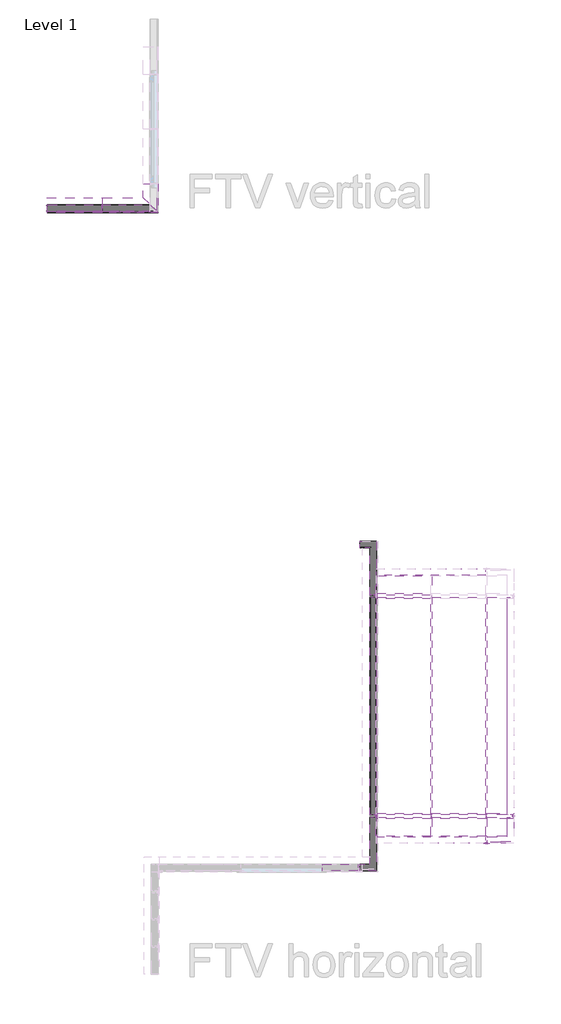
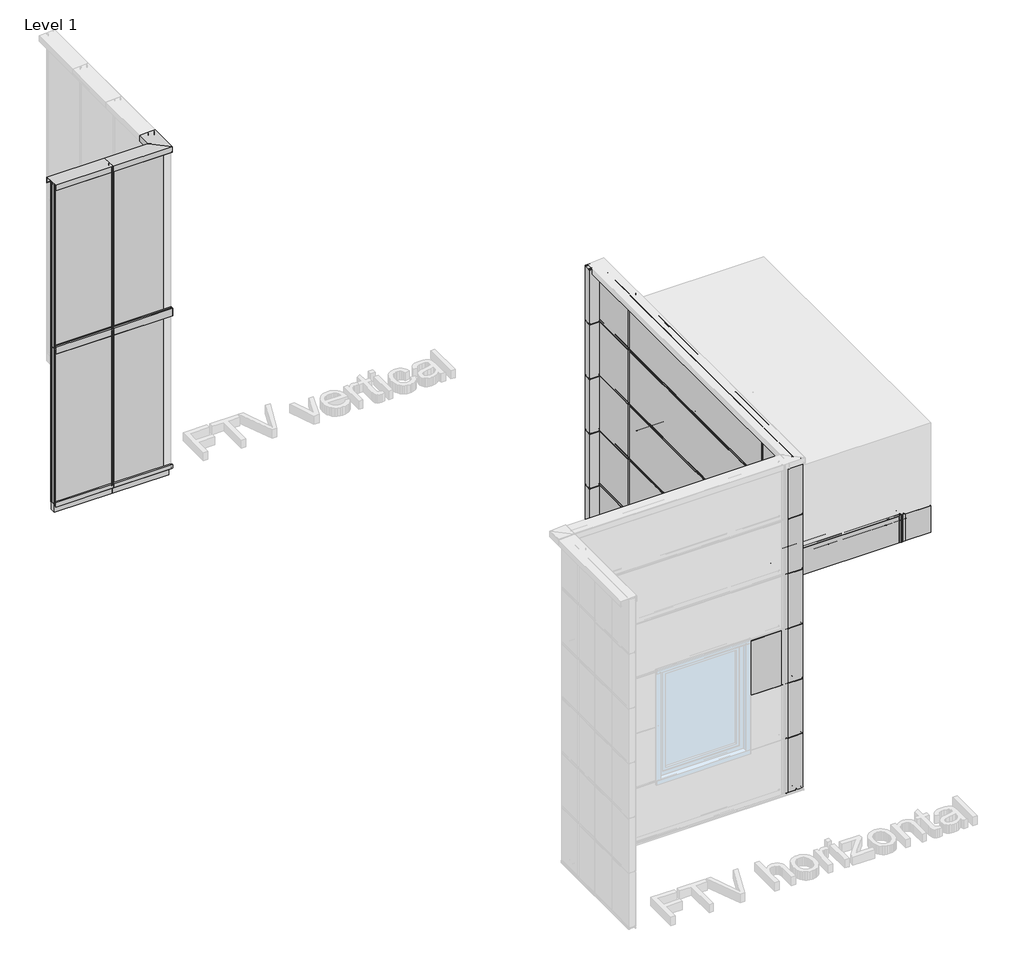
# One storey, part 2 of 16: 35 plates, 26 members.
"""IFC4 building model written with IfcOpenShell, lengths in millimetres."""

from ifc_helpers import new_model, si_unit, point, frame, frame_2d, origin, place, context, project, spatial, polyline, circle_curve, trimmed, segment, composite_curve, outline, extrude, transform, mapped, element, save
from components import rectangular_mullion_bb89daf4, rectangular_mullion_3d825509, rectangular_mullion_a47ee03b, rectangular_mullion_513d8d5d, rectangular_mullion_1a67f413, rectangular_mullion_03bf972b, rectangular_mullion_af7dcb7b, rectangular_mullion_ffd1ddda, rectangular_mullion_00074b12, rectangular_mullion_0c125c1a, rectangular_mullion_e84dba29, rectangular_mullion_6308ee2a, plate_120_ral9006_ral9002_46c4dbfd, plate_120_ral9006_ral9002_3762bd6a, plate_120_ral9006_ral9002_a6f5208c, plate_120_ral9006_ral9002_786550d8, plate_120_ral9006_ral9002_75840fce, plate_120_ral9006_ral9002_4177b999, plate_120_ral9006_ral9002_6d735d81, plate_120_ral9006_ral9002_27679325, plate_120_ral9006_ral9002_82c58e75, plate_120_ral9006_ral9002_b045842a, plate_120_ral9006_ral9002_200af9a8, plate_120_ral9006_ral9002_56020689, plate_120_ral9006_ral9002_a21c830a, plate_120_ral9006_ral9002_852db846, plate_120_ral9006_ral9002_347d5f76, plate_120_ral9006_ral9002_4569f67c, tr_empty_empty_7661b975

model = new_model("IFC4")

# Units and contexts
model_context = context("Model", 3, world=origin())
ifc_project = project(units=[si_unit("LENGTHUNIT", "METRE", prefix="MILLI")], contexts=[model_context])

# Site, building, storey
site = spatial("IfcSite", under=ifc_project)
building = spatial("IfcBuilding", under=site)
storey = spatial("IfcBuildingStorey", under=building, Name="Level 1", Elevation=0.0)

# Members
placement = place(None, origin())
rectangular_mullion_shape = rectangular_mullion_bb89daf4(model_context)
element("IfcMember", 1, ObjectType="Rectangular Mullion : TE-H-01_03_Joint HF102", at=placement, inside=storey, context=model_context, shape_type="MappedRepresentation", body=[
    mapped(rectangular_mullion_shape, transform((2005.8844943, -11530.3930879, 4150.0), x_axis=(-1.0, 0.0, 0.0), y_axis=(0.0, -1.0, 0.0), z_axis=(0.0, 0.0, 1.0))),
])
element("IfcMember", 2, ObjectType="Rectangular Mullion : TE-H-01_03_Joint HF102", at=placement, inside=storey, context=model_context, shape_type="MappedRepresentation", body=[
    mapped(rectangular_mullion_shape, transform((2505.8844943, -11030.3930879, 4150.0), x_axis=(0.0, -1.0, 0.0), y_axis=(1.0, 0.0, 0.0), z_axis=(0.0, 0.0, 1.0))),
])
rectangular_mullion_2_shape = rectangular_mullion_3d825509(model_context)
element("IfcMember", 3, ObjectType="Rectangular Mullion : TE-H-01_03_Joint HF102", at=placement, inside=storey, context=model_context, shape_type="MappedRepresentation", body=[
    mapped(rectangular_mullion_2_shape, transform((2505.8844943, -11030.3930879, 3650.0), x_axis=(0.0, -1.0, 0.0), y_axis=(0.0, 0.0, -1.0), z_axis=(1.0, 0.0, 0.0))),
])
rectangular_mullion_3_shape = rectangular_mullion_a47ee03b(model_context)
element("IfcMember", 4, ObjectType="Rectangular Mullion : TE-H-01_03_Joint HF102", at=placement, inside=storey, context=model_context, shape_type="MappedRepresentation", body=[
    mapped(rectangular_mullion_3_shape, transform((1005.8844943, -11030.3930879, 3650.0), x_axis=(0.0, -1.0, 0.0), y_axis=(0.0, 0.0, -1.0), z_axis=(1.0, 0.0, 0.0))),
])
element("IfcMember", 5, ObjectType="Rectangular Mullion : TE-H-01_03_Joint HF102", at=placement, inside=storey, context=model_context, shape_type="MappedRepresentation", body=[
    mapped(rectangular_mullion_3_shape, transform((1005.8844943, -7030.3930879, 3650.0), x_axis=(0.0, -1.0, 0.0), y_axis=(0.0, 0.0, -1.0), z_axis=(1.0, 0.0, 0.0))),
])
element("IfcMember", 6, ObjectType="Rectangular Mullion : TE-H-01_03_Joint HF102", at=placement, inside=storey, context=model_context, shape_type="MappedRepresentation", body=[
    mapped(rectangular_mullion_3_shape, transform((2005.8844943, -11030.3930879, 3650.0), x_axis=(0.0, -1.0, 0.0), y_axis=(0.0, 0.0, -1.0), z_axis=(1.0, 0.0, 0.0))),
])
rectangular_mullion_4_shape = rectangular_mullion_513d8d5d(model_context)
element("IfcMember", 7, ObjectType="Rectangular Mullion : TE-V-03_01_Top parapet", at=placement, inside=storey, context=model_context, shape_type="MappedRepresentation", body=[
    mapped(rectangular_mullion_4_shape, transform((-5994.1155057, -30.3930879, 6000.0), x_axis=(0.0, 0.0, 1.0), y_axis=(0.0, 1.0, 0.0), z_axis=(-1.0, 0.0, 0.0))),
])
rectangular_mullion_5_shape = rectangular_mullion_1a67f413(model_context)
element("IfcMember", 8, ObjectType="Rectangular Mullion : TE-V-03_01_Top parapet", at=placement, inside=storey, context=model_context, shape_type="MappedRepresentation", body=[
    mapped(rectangular_mullion_5_shape, transform((-4994.115506, -30.3930879, 6000.0), x_axis=(0.0, 0.0, 1.0), y_axis=(0.0, 1.0, 0.0), z_axis=(-1.0, 0.0, 0.0))),
])
rectangular_mullion_6_shape = rectangular_mullion_03bf972b(model_context)
element("IfcMember", 9, ObjectType="Rectangular Mullion : TE-V-02_01_Base detail i", at=placement, inside=storey, context=model_context, shape_type="MappedRepresentation", body=[
    mapped(rectangular_mullion_6_shape, transform((-3994.1155057, -30.3930879, 0.0), x_axis=(0.0, 0.0, -1.0), y_axis=(0.0, 1.0, 0.0), z_axis=(1.0, 0.0, 0.0))),
])
rectangular_mullion_7_shape = rectangular_mullion_af7dcb7b(model_context)
element("IfcMember", 10, ObjectType="Rectangular Mullion : TE-V-02_01_Base detail i", at=placement, inside=storey, context=model_context, shape_type="MappedRepresentation", body=[
    mapped(rectangular_mullion_7_shape, transform((-4994.115506, -30.3930879, 0.0), x_axis=(0.0, 0.0, -1.0), y_axis=(0.0, 1.0, 0.0), z_axis=(1.0, 0.0, 0.0))),
])
rectangular_mullion_8_shape = rectangular_mullion_ffd1ddda(model_context)
element("IfcMember", 11, ObjectType="Rectangular Mullion : TE-V-01_02_Joint flashing", at=placement, inside=storey, context=model_context, shape_type="MappedRepresentation", body=[
    mapped(rectangular_mullion_8_shape, transform((-4994.115506, -30.3930879, 3000.0), x_axis=(0.0, 0.0, 1.0), y_axis=(0.0, 1.0, 0.0), z_axis=(-1.0, 0.0, 0.0))),
])
rectangular_mullion_9_shape = rectangular_mullion_00074b12(model_context)
element("IfcMember", 12, ObjectType="Rectangular Mullion : TE-V-01_02_Joint flashing", at=placement, inside=storey, context=model_context, shape_type="MappedRepresentation", body=[
    mapped(rectangular_mullion_9_shape, transform((-5994.1155057, -30.3930879, 3000.0), x_axis=(0.0, 0.0, 1.0), y_axis=(0.0, 1.0, 0.0), z_axis=(-1.0, 0.0, 0.0))),
])
rectangular_mullion_10_shape = rectangular_mullion_0c125c1a(model_context)
element("IfcMember", 13, ObjectType="Rectangular Mullion : TE-V-01_02_Joint flashing", at=placement, inside=storey, context=model_context, shape_type="MappedRepresentation", body=[
    mapped(rectangular_mullion_10_shape, transform((-3994.1155057, -30.3930879, 3000.0), x_axis=(0.0, 0.0, 1.0), y_axis=(-1.0, 0.0, 0.0), z_axis=(0.0, -1.0, 0.0))),
])
rectangular_mullion_11_shape = rectangular_mullion_e84dba29(model_context)
element("IfcMember", 14, ObjectType="Rectangular Mullion : TE-V-03_01_Top parapet", at=placement, inside=storey, context=model_context, shape_type="MappedRepresentation", body=[
    mapped(rectangular_mullion_11_shape, transform((-3994.1155057, -30.3930879, 6000.0), x_axis=(0.0, 0.0, 1.0), y_axis=(-1.0, 0.0, 0.0), z_axis=(0.0, -1.0, 0.0))),
])
rectangular_mullion_12_shape = rectangular_mullion_6308ee2a(model_context)
element("IfcMember", 15, ObjectType="Rectangular Mullion : TE-H-01_03_Joint HF102", at=placement, inside=storey, context=model_context, shape_type="MappedRepresentation", body=[
    mapped(rectangular_mullion_12_shape, transform((5.8844943, -7030.3930879, 1167.0), x_axis=(0.0, -1.0, 0.0), y_axis=(-1.0, 0.0, 0.0), z_axis=(0.0, 0.0, -1.0))),
])
element("IfcMember", 16, ObjectType="Rectangular Mullion : TE-H-01_03_Joint HF102", at=placement, inside=storey, context=model_context, shape_type="MappedRepresentation", body=[
    mapped(rectangular_mullion_12_shape, transform((5.8844943, -7030.3930879, 2167.0), x_axis=(0.0, -1.0, 0.0), y_axis=(-1.0, 0.0, 0.0), z_axis=(0.0, 0.0, -1.0))),
])
element("IfcMember", 17, ObjectType="Rectangular Mullion : TE-H-01_03_Joint HF102", at=placement, inside=storey, context=model_context, shape_type="MappedRepresentation", body=[
    mapped(rectangular_mullion_12_shape, transform((5.8844943, -7030.3930879, 3167.0), x_axis=(0.0, -1.0, 0.0), y_axis=(-1.0, 0.0, 0.0), z_axis=(0.0, 0.0, -1.0))),
])
element("IfcMember", 18, ObjectType="Rectangular Mullion : TE-H-01_03_Joint HF102", at=placement, inside=storey, context=model_context, shape_type="MappedRepresentation", body=[
    mapped(rectangular_mullion_12_shape, transform((5.8844943, -7030.3930879, 4167.0), x_axis=(0.0, -1.0, 0.0), y_axis=(-1.0, 0.0, 0.0), z_axis=(0.0, 0.0, -1.0))),
])
element("IfcMember", 19, ObjectType="Rectangular Mullion : TE-H-01_03_Joint HF102", at=placement, inside=storey, context=model_context, shape_type="MappedRepresentation", body=[
    mapped(rectangular_mullion_12_shape, transform((5.8844943, -11030.3930879, 1167.0), x_axis=(0.0, -1.0, 0.0), y_axis=(-1.0, 0.0, 0.0), z_axis=(0.0, 0.0, -1.0))),
])
element("IfcMember", 20, ObjectType="Rectangular Mullion : TE-H-01_03_Joint HF102", at=placement, inside=storey, context=model_context, shape_type="MappedRepresentation", body=[
    mapped(rectangular_mullion_12_shape, transform((5.8844943, -11030.3930879, 2167.0), x_axis=(0.0, -1.0, 0.0), y_axis=(-1.0, 0.0, 0.0), z_axis=(0.0, 0.0, -1.0))),
])
element("IfcMember", 21, ObjectType="Rectangular Mullion : TE-H-01_03_Joint HF102", at=placement, inside=storey, context=model_context, shape_type="MappedRepresentation", body=[
    mapped(rectangular_mullion_12_shape, transform((5.8844943, -11030.3930879, 3167.0), x_axis=(0.0, -1.0, 0.0), y_axis=(-1.0, 0.0, 0.0), z_axis=(0.0, 0.0, -1.0))),
])
element("IfcMember", 22, ObjectType="Rectangular Mullion : TE-H-01_03_Joint HF102", at=placement, inside=storey, context=model_context, shape_type="MappedRepresentation", body=[
    mapped(rectangular_mullion_12_shape, transform((5.8844943, -11030.3930879, 4167.0), x_axis=(0.0, -1.0, 0.0), y_axis=(-1.0, 0.0, 0.0), z_axis=(0.0, 0.0, -1.0))),
])
element("IfcMember", 23, ObjectType="Rectangular Mullion : TE-H-01_03_Joint HF102", at=placement, inside=storey, context=model_context, shape_type="MappedRepresentation", body=[
    mapped(rectangular_mullion_12_shape, transform((5.8844943, -7030.3930879, 167.0), x_axis=(0.0, -1.0, 0.0), y_axis=(-1.0, 0.0, 0.0), z_axis=(0.0, 0.0, -1.0))),
])
element("IfcMember", 24, ObjectType="Rectangular Mullion : TE-H-01_03_Joint HF102", at=placement, inside=storey, context=model_context, shape_type="MappedRepresentation", body=[
    mapped(rectangular_mullion_12_shape, transform((5.8844943, -11030.3930879, 167.0), x_axis=(0.0, -1.0, 0.0), y_axis=(-1.0, 0.0, 0.0), z_axis=(0.0, 0.0, -1.0))),
])
element("IfcMember", 25, ObjectType="Rectangular Mullion : TE-H-01_03_Joint HF102", at=placement, inside=storey, context=model_context, shape_type="MappedRepresentation", body=[
    mapped(rectangular_mullion_12_shape, transform((5.8844943, -7030.3930879, 5167.0), x_axis=(0.0, -1.0, 0.0), y_axis=(-1.0, 0.0, 0.0), z_axis=(0.0, 0.0, -1.0))),
])
element("IfcMember", 26, ObjectType="Rectangular Mullion : TE-H-01_03_Joint HF102", at=placement, inside=storey, context=model_context, shape_type="MappedRepresentation", body=[
    mapped(rectangular_mullion_12_shape, transform((5.8844943, -11030.3930879, 5167.0), x_axis=(0.0, -1.0, 0.0), y_axis=(-1.0, 0.0, 0.0), z_axis=(0.0, 0.0, -1.0))),
])

# Plates
element("IfcPlate", 27, ObjectType="TR_C_H_FTV_Panel : 120/RAL9006/RAL9002", at=placement, inside=storey, context=model_context, shape_type="SweptSolid", body=[
    extrude(outline(composite_curve([segment(polyline([(-11927.2800551, 3166.8000012), (-11931.3930879, 3166.8000012), (-11931.3930879, 3167.6000012), (-11927.2800551, 3167.6000012)]), True, "CONTINUOUS"), segment(trimmed(circle_curve(frame_2d((-11927.2800551, 3171.3500012)), 3.75), [point((-11927.2800551, 3167.6000012))], [point((-11923.587026, 3170.6988205))], True, "CARTESIAN"), True, "CONTINUOUS"), segment(polyline([(-11923.587026, 3170.6988205), (-11922.8437131, 3174.9143577)]), True, "CONTINUOUS"), segment(trimmed(circle_curve(frame_2d((-11919.6430879, 3174.3500012)), 3.25), [point((-11922.8437131, 3174.9143577))], [point((-11916.3930879, 3174.3500012))], False, "CARTESIAN"), True, "CONTINUOUS"), segment(polyline([(-11916.3930879, 3174.3500012), (-11916.3930879, 3159.6000012)]), True, "CONTINUOUS"), segment(trimmed(circle_curve(frame_2d((-11913.8930879, 3159.6000012)), 2.5), [point((-11916.3930879, 3159.6000012))], [point((-11915.6608548, 3157.8322342))], True, "CARTESIAN"), True, "CONTINUOUS"), segment(polyline([(-11915.6608548, 3157.8322342), (-11911.2717675, 3153.4431469)]), True, "CONTINUOUS"), segment(trimmed(circle_curve(frame_2d((-11913.3930879, 3151.3218266)), 3.0), [point((-11911.2717675, 3153.4431469))], [point((-11910.3930879, 3151.3218266))], False, "CARTESIAN"), True, "CONTINUOUS"), segment(polyline([(-11910.3930879, 3151.3218266), (-11910.3930879, 2161.981372)]), True, "CONTINUOUS"), segment(trimmed(circle_curve(frame_2d((-11913.1430879, 2161.981372)), 2.75), [point((-11910.3930879, 2161.981372))], [point((-11911.1985442, 2160.0368284))], False, "CARTESIAN"), True, "CONTINUOUS"), segment(polyline([(-11911.1985442, 2160.0368284), (-11913.0642296, 2158.1711429)]), True, "CONTINUOUS"), segment(trimmed(circle_curve(frame_2d((-11914.4430879, 2159.5500012)), 1.95), [point((-11913.0642296, 2158.1711429))], [point((-11916.3930879, 2159.5500012))], False, "CARTESIAN"), True, "CONTINUOUS"), segment(polyline([(-11916.3930879, 2159.5500012), (-11916.3930879, 2177.1500012)]), True, "CONTINUOUS"), segment(trimmed(circle_curve(frame_2d((-11919.8430879, 2177.1500012)), 3.45), [point((-11916.3930879, 2177.1500012))], [point((-11923.2406746, 2177.7490874))], True, "CARTESIAN"), True, "CONTINUOUS"), segment(polyline([(-11923.2406746, 2177.7490874), (-11924.3074999, 2171.6988205)]), True, "CONTINUOUS"), segment(trimmed(circle_curve(frame_2d((-11928.000529, 2172.3500012)), 3.75), [point((-11924.3074999, 2171.6988205))], [point((-11928.000529, 2168.6000012))], False, "CARTESIAN"), True, "CONTINUOUS"), segment(polyline([(-11928.000529, 2168.6000012), (-11931.3930879, 2168.6000012), (-11931.3930879, 2169.4000012), (-11928.000529, 2169.4000012)]), True, "CONTINUOUS"), segment(trimmed(circle_curve(frame_2d((-11928.000529, 2172.3500012)), 2.95), [point((-11928.000529, 2169.4000012))], [point((-11925.0953461, 2171.837739))], True, "CARTESIAN"), True, "CONTINUOUS"), segment(polyline([(-11925.0953461, 2171.837739), (-11924.0285208, 2177.8880059)]), True, "CONTINUOUS"), segment(trimmed(circle_curve(frame_2d((-11919.8430879, 2177.1500012)), 4.25), [point((-11924.0285208, 2177.8880059))], [point((-11915.5930879, 2177.1500012))], False, "CARTESIAN"), True, "CONTINUOUS"), segment(polyline([(-11915.5930879, 2177.1500012), (-11915.5930879, 2159.5500012)]), True, "CONTINUOUS"), segment(trimmed(circle_curve(frame_2d((-11914.4430879, 2159.5500012)), 1.15), [point((-11915.5930879, 2159.5500012))], [point((-11913.6299151, 2158.7368284))], True, "CARTESIAN"), True, "CONTINUOUS"), segment(polyline([(-11913.6299151, 2158.7368284), (-11911.7642296, 2160.6025138)]), True, "CONTINUOUS"), segment(trimmed(circle_curve(frame_2d((-11913.1430879, 2161.981372)), 1.95), [point((-11911.7642296, 2160.6025138))], [point((-11911.1930879, 2161.981372))], True, "CARTESIAN"), True, "CONTINUOUS"), segment(polyline([(-11911.1930879, 2161.981372), (-11911.1930879, 3151.3218266)]), True, "CONTINUOUS"), segment(trimmed(circle_curve(frame_2d((-11913.3930879, 3151.3218266)), 2.2), [point((-11911.1930879, 3151.3218266))], [point((-11911.837453, 3152.8774615))], True, "CARTESIAN"), True, "CONTINUOUS"), segment(polyline([(-11911.837453, 3152.8774615), (-11916.2265402, 3157.2665488)]), True, "CONTINUOUS"), segment(trimmed(circle_curve(frame_2d((-11913.8930879, 3159.6000012)), 3.3), [point((-11916.2265402, 3157.2665488))], [point((-11917.1930879, 3159.6000012))], False, "CARTESIAN"), True, "CONTINUOUS"), segment(polyline([(-11917.1930879, 3159.6000012), (-11917.1930879, 3174.3500012)]), True, "CONTINUOUS"), segment(trimmed(circle_curve(frame_2d((-11919.6430879, 3174.3500012)), 2.45), [point((-11917.1930879, 3174.3500012))], [point((-11922.0558669, 3174.7754392))], True, "CARTESIAN"), True, "CONTINUOUS"), segment(polyline([(-11922.0558669, 3174.7754392), (-11922.7991798, 3170.559902)]), True, "CONTINUOUS"), segment(trimmed(circle_curve(frame_2d((-11927.2800551, 3171.3500012)), 4.55), [point((-11922.7991798, 3170.559902))], [point((-11927.2800551, 3166.8000012))], False, "CARTESIAN"), True, "CONTINUOUS")], self_intersect=False)), frame((-974.1155057, 0.0, 0.0), z_axis=(1.0, 0.0, 0.0), x_axis=(0.0, 1.0, 0.0)), (0.0, 0.0, 1.0), 640.0),
    extrude(outline(composite_curve([segment(polyline([(-12009.3930879, 2169.4000012), (-12009.3930879, 2168.6000012), (-12012.7856468, 2168.6000012)]), True, "CONTINUOUS"), segment(trimmed(circle_curve(frame_2d((-12012.7856468, 2172.3500012)), 3.75), [point((-12012.7856468, 2168.6000012))], [point((-12016.4786758, 2171.6988205))], False, "CARTESIAN"), True, "CONTINUOUS"), segment(polyline([(-12016.4786758, 2171.6988205), (-12017.5455011, 2177.7490874)]), True, "CONTINUOUS"), segment(trimmed(circle_curve(frame_2d((-12020.9430879, 2177.1500012)), 3.45), [point((-12017.5455011, 2177.7490874))], [point((-12024.3930879, 2177.1500012))], True, "CARTESIAN"), True, "CONTINUOUS"), segment(polyline([(-12024.3930879, 2177.1500012), (-12024.3930879, 2159.5500012)]), True, "CONTINUOUS"), segment(trimmed(circle_curve(frame_2d((-12026.3430879, 2159.5500012)), 1.95), [point((-12024.3930879, 2159.5500012))], [point((-12027.7219461, 2158.1711429))], False, "CARTESIAN"), True, "CONTINUOUS"), segment(polyline([(-12027.7219461, 2158.1711429), (-12029.5876315, 2160.0368284)]), True, "CONTINUOUS"), segment(trimmed(circle_curve(frame_2d((-12027.6430879, 2161.981372)), 2.75), [point((-12029.5876315, 2160.0368284))], [point((-12030.3930879, 2161.981372))], False, "CARTESIAN"), True, "CONTINUOUS"), segment(polyline([(-12030.3930879, 2161.981372), (-12030.3930879, 3151.3218266)]), True, "CONTINUOUS"), segment(trimmed(circle_curve(frame_2d((-12027.3930879, 3151.3218266)), 3.0), [point((-12030.3930879, 3151.3218266))], [point((-12029.5144082, 3153.4431469))], False, "CARTESIAN"), True, "CONTINUOUS"), segment(polyline([(-12029.5144082, 3153.4431469), (-12025.1253209, 3157.8322342)]), True, "CONTINUOUS"), segment(trimmed(circle_curve(frame_2d((-12026.8930879, 3159.6000012)), 2.5), [point((-12025.1253209, 3157.8322342))], [point((-12024.3930879, 3159.6000012))], True, "CARTESIAN"), True, "CONTINUOUS"), segment(polyline([(-12024.3930879, 3159.6000012), (-12024.3930879, 3174.3500012)]), True, "CONTINUOUS"), segment(trimmed(circle_curve(frame_2d((-12021.1430879, 3174.3500012)), 3.25), [point((-12024.3930879, 3174.3500012))], [point((-12017.9424627, 3174.9143577))], False, "CARTESIAN"), True, "CONTINUOUS"), segment(polyline([(-12017.9424627, 3174.9143577), (-12017.1991497, 3170.6988205)]), True, "CONTINUOUS"), segment(trimmed(circle_curve(frame_2d((-12013.5061206, 3171.3500012)), 3.75), [point((-12017.1991497, 3170.6988205))], [point((-12013.5061206, 3167.6000012))], True, "CARTESIAN"), True, "CONTINUOUS"), segment(polyline([(-12013.5061206, 3167.6000012), (-12009.3930879, 3167.6000012), (-12009.3930879, 3166.8000012), (-12013.5061206, 3166.8000012)]), True, "CONTINUOUS"), segment(trimmed(circle_curve(frame_2d((-12013.5061206, 3171.3500012)), 4.55), [point((-12013.5061206, 3166.8000012))], [point((-12017.9869959, 3170.559902))], False, "CARTESIAN"), True, "CONTINUOUS"), segment(polyline([(-12017.9869959, 3170.559902), (-12018.7303089, 3174.7754392)]), True, "CONTINUOUS"), segment(trimmed(circle_curve(frame_2d((-12021.1430879, 3174.3500012)), 2.45), [point((-12018.7303089, 3174.7754392))], [point((-12023.5930879, 3174.3500012))], True, "CARTESIAN"), True, "CONTINUOUS"), segment(polyline([(-12023.5930879, 3174.3500012), (-12023.5930879, 3159.6000012)]), True, "CONTINUOUS"), segment(trimmed(circle_curve(frame_2d((-12026.8930879, 3159.6000012)), 3.3), [point((-12023.5930879, 3159.6000012))], [point((-12024.5596355, 3157.2665488))], False, "CARTESIAN"), True, "CONTINUOUS"), segment(polyline([(-12024.5596355, 3157.2665488), (-12028.9487228, 3152.8774615)]), True, "CONTINUOUS"), segment(trimmed(circle_curve(frame_2d((-12027.3930879, 3151.3218266)), 2.2), [point((-12028.9487228, 3152.8774615))], [point((-12029.5930879, 3151.3218266))], True, "CARTESIAN"), True, "CONTINUOUS"), segment(polyline([(-12029.5930879, 3151.3218266), (-12029.5930879, 2161.981372)]), True, "CONTINUOUS"), segment(trimmed(circle_curve(frame_2d((-12027.6430879, 2161.981372)), 1.95), [point((-12029.5930879, 2161.981372))], [point((-12029.0219461, 2160.6025138))], True, "CARTESIAN"), True, "CONTINUOUS"), segment(polyline([(-12029.0219461, 2160.6025138), (-12027.1562607, 2158.7368284)]), True, "CONTINUOUS"), segment(trimmed(circle_curve(frame_2d((-12026.3430879, 2159.5500012)), 1.15), [point((-12027.1562607, 2158.7368284))], [point((-12025.1930879, 2159.5500012))], True, "CARTESIAN"), True, "CONTINUOUS"), segment(polyline([(-12025.1930879, 2159.5500012), (-12025.1930879, 2177.1500012)]), True, "CONTINUOUS"), segment(trimmed(circle_curve(frame_2d((-12020.9430879, 2177.1500012)), 4.25), [point((-12025.1930879, 2177.1500012))], [point((-12016.7576549, 2177.8880059))], False, "CARTESIAN"), True, "CONTINUOUS"), segment(polyline([(-12016.7576549, 2177.8880059), (-12015.6908296, 2171.837739)]), True, "CONTINUOUS"), segment(trimmed(circle_curve(frame_2d((-12012.7856468, 2172.3500012)), 2.95), [point((-12015.6908296, 2171.837739))], [point((-12012.7856468, 2169.4000012))], True, "CARTESIAN"), True, "CONTINUOUS"), segment(polyline([(-12012.7856468, 2169.4000012), (-12009.3930879, 2169.4000012)]), True, "CONTINUOUS")], self_intersect=False)), frame((-974.1155057, 0.0, 0.0), z_axis=(1.0, 0.0, 0.0), x_axis=(0.0, 1.0, 0.0)), (0.0, 0.0, 1.0), 640.0),
    extrude(outline(composite_curve([segment(polyline([(-12029.5930879, 2181.4000012), (-12029.5930879, 3151.3218266)]), True, "CONTINUOUS"), segment(trimmed(circle_curve(frame_2d((-12027.3930879, 3151.3218266)), 2.2), [point((-12029.5930879, 3151.3218266))], [point((-12028.9487228, 3152.8774615))], False, "CARTESIAN"), True, "CONTINUOUS"), segment(polyline([(-12028.9487228, 3152.8774615), (-12024.5596355, 3157.2665488)]), True, "CONTINUOUS"), segment(trimmed(circle_curve(frame_2d((-12026.8930879, 3159.6000012)), 3.3), [point((-12024.5596355, 3157.2665488))], [point((-12023.5930879, 3159.6000012))], True, "CARTESIAN"), True, "CONTINUOUS"), segment(polyline([(-12023.5930879, 3159.6000012), (-12023.5930879, 3167.0), (-11917.1930879, 3167.0), (-11917.1930879, 3159.6000012)]), True, "CONTINUOUS"), segment(trimmed(circle_curve(frame_2d((-11913.8930879, 3159.6000012)), 3.3), [point((-11917.1930879, 3159.6000012))], [point((-11916.2265402, 3157.2665488))], True, "CARTESIAN"), True, "CONTINUOUS"), segment(polyline([(-11916.2265402, 3157.2665488), (-11911.837453, 3152.8774615)]), True, "CONTINUOUS"), segment(trimmed(circle_curve(frame_2d((-11913.3930879, 3151.3218266)), 2.2), [point((-11911.837453, 3152.8774615))], [point((-11911.1930879, 3151.3218266))], False, "CARTESIAN"), True, "CONTINUOUS"), segment(polyline([(-11911.1930879, 3151.3218266), (-11911.1930879, 2181.4000012), (-11919.8430879, 2181.4000012)]), True, "CONTINUOUS"), segment(trimmed(circle_curve(frame_2d((-11919.8430879, 2177.1500012)), 4.25), [point((-11919.8430879, 2181.4000012))], [point((-11924.0285208, 2177.8880059))], True, "CARTESIAN"), True, "CONTINUOUS"), segment(polyline([(-11924.0285208, 2177.8880059), (-11925.0953461, 2171.837739)]), True, "CONTINUOUS"), segment(trimmed(circle_curve(frame_2d((-11928.000529, 2172.3500012)), 2.95), [point((-11925.0953461, 2171.837739))], [point((-11928.000529, 2169.4000012))], False, "CARTESIAN"), True, "CONTINUOUS"), segment(polyline([(-11928.000529, 2169.4000012), (-11934.0930879, 2169.4000012), (-11934.0930879, 2167.0000012), (-12006.6930879, 2167.0000012), (-12006.6930879, 2169.4000012), (-12012.7856468, 2169.4000012)]), True, "CONTINUOUS"), segment(trimmed(circle_curve(frame_2d((-12012.7856468, 2172.3500012)), 2.95), [point((-12012.7856468, 2169.4000012))], [point((-12015.6908296, 2171.837739))], False, "CARTESIAN"), True, "CONTINUOUS"), segment(polyline([(-12015.6908296, 2171.837739), (-12016.7576549, 2177.8880059)]), True, "CONTINUOUS"), segment(trimmed(circle_curve(frame_2d((-12020.9430879, 2177.1500012)), 4.25), [point((-12016.7576549, 2177.8880059))], [point((-12020.9430879, 2181.4000012))], True, "CARTESIAN"), True, "CONTINUOUS"), segment(polyline([(-12020.9430879, 2181.4000012), (-12029.5930879, 2181.4000012)]), True, "CONTINUOUS")], self_intersect=False)), frame((-974.1155057, 0.0, 0.0), z_axis=(1.0, 0.0, 0.0), x_axis=(0.0, 1.0, 0.0)), (0.0, 0.0, 1.0), 640.0),
])
plate_120_ral9006_ral9002_shape = plate_120_ral9006_ral9002_46c4dbfd(model_context)
element("IfcPlate", 28, ObjectType="TR_C_H_FTV_Panel : 120/RAL9006/RAL9002", at=placement, inside=storey, context=model_context, shape_type="MappedRepresentation", body=[
    mapped(plate_120_ral9006_ral9002_shape, transform((5.8844943, -9030.3930879, 167.0), x_axis=(0.0, -1.0, 0.0), y_axis=(1.0, 0.0, 0.0), z_axis=(0.0, 0.0, 1.0))),
])
element("IfcPlate", 29, ObjectType="TR_C_H_FTV_Panel : 120/RAL9006/RAL9002", at=placement, inside=storey, context=model_context, shape_type="MappedRepresentation", body=[
    mapped(plate_120_ral9006_ral9002_shape, transform((5.8844943, -9030.3930879, 1167.0), x_axis=(0.0, -1.0, 0.0), y_axis=(1.0, 0.0, 0.0), z_axis=(0.0, 0.0, 1.0))),
])
element("IfcPlate", 30, ObjectType="TR_C_H_FTV_Panel : 120/RAL9006/RAL9002", at=placement, inside=storey, context=model_context, shape_type="MappedRepresentation", body=[
    mapped(plate_120_ral9006_ral9002_shape, transform((5.8844943, -9030.3930879, 2167.0), x_axis=(0.0, -1.0, 0.0), y_axis=(1.0, 0.0, 0.0), z_axis=(0.0, 0.0, 1.0))),
])
element("IfcPlate", 31, ObjectType="TR_C_H_FTV_Panel : 120/RAL9006/RAL9002", at=placement, inside=storey, context=model_context, shape_type="MappedRepresentation", body=[
    mapped(plate_120_ral9006_ral9002_shape, transform((5.8844943, -9030.3930879, 3167.0), x_axis=(0.0, -1.0, 0.0), y_axis=(1.0, 0.0, 0.0), z_axis=(0.0, 0.0, 1.0))),
])
element("IfcPlate", 32, ObjectType="TR_C_H_FTV_Panel : 120/RAL9006/RAL9002", at=placement, inside=storey, context=model_context, shape_type="MappedRepresentation", body=[
    mapped(plate_120_ral9006_ral9002_shape, transform((5.8844943, -9030.3930879, 4167.0), x_axis=(0.0, -1.0, 0.0), y_axis=(1.0, 0.0, 0.0), z_axis=(0.0, 0.0, 1.0))),
])
element("IfcPlate", 33, ObjectType="TR_C_H_FTV_Panel : 120/RAL9006/RAL9002", at=placement, inside=storey, context=model_context, shape_type="MappedRepresentation", body=[
    mapped(plate_120_ral9006_ral9002_shape, transform((5.8844943, -9030.3930879, 5167.0), x_axis=(0.0, -1.0, 0.0), y_axis=(1.0, 0.0, 0.0), z_axis=(0.0, 0.0, 1.0))),
])
element("IfcPlate", 34, ObjectType="TR_C_H_FTV_Panel : 120/RAL9006/RAL9002", at=placement, inside=storey, context=model_context, shape_type="MappedRepresentation", body=[
    mapped(plate_120_ral9006_ral9002_shape, transform((5.8844943, -9030.3930879, 3650.0), x_axis=(0.0, -1.0, 0.0), y_axis=(0.0, 0.0, -1.0), z_axis=(1.0, 0.0, 0.0))),
])
element("IfcPlate", 35, ObjectType="TR_C_H_FTV_Panel : 120/RAL9006/RAL9002", at=placement, inside=storey, context=model_context, shape_type="MappedRepresentation", body=[
    mapped(plate_120_ral9006_ral9002_shape, transform((1005.8844943, -9030.3930879, 3650.0), x_axis=(0.0, -1.0, 0.0), y_axis=(0.0, 0.0, -1.0), z_axis=(1.0, 0.0, 0.0))),
])
plate_120_ral9006_ral9002_2_shape = plate_120_ral9006_ral9002_3762bd6a(model_context)
element("IfcPlate", 36, ObjectType="TR_C_H_FTV_Panel : 120/RAL9006/RAL9002", at=placement, inside=storey, context=model_context, shape_type="MappedRepresentation", body=[
    mapped(plate_120_ral9006_ral9002_2_shape, transform((5.8844943, -6770.3930879, 3650.0), x_axis=(0.0, -1.0, 0.0), y_axis=(0.0, 0.0, -1.0), z_axis=(1.0, 0.0, 0.0))),
])
plate_120_ral9006_ral9002_3_shape = plate_120_ral9006_ral9002_a6f5208c(model_context)
element("IfcPlate", 37, ObjectType="TR_C_H_FTV_Panel : 120/RAL9006/RAL9002", at=placement, inside=storey, context=model_context, shape_type="MappedRepresentation", body=[
    mapped(plate_120_ral9006_ral9002_3_shape, transform((5.8844943, -11290.3930879, 3650.0), x_axis=(0.0, -1.0, 0.0), y_axis=(0.0, 0.0, -1.0), z_axis=(1.0, 0.0, 0.0))),
])
element("IfcPlate", 38, ObjectType="TR_C_H_FTV_Panel : 120/RAL9006/RAL9002", at=placement, inside=storey, context=model_context, shape_type="MappedRepresentation", body=[
    mapped(plate_120_ral9006_ral9002_3_shape, transform((1005.8844943, -11290.3930879, 3650.0), x_axis=(0.0, -1.0, 0.0), y_axis=(0.0, 0.0, -1.0), z_axis=(1.0, 0.0, 0.0))),
])
plate_120_ral9006_ral9002_4_shape = plate_120_ral9006_ral9002_786550d8(model_context)
element("IfcPlate", 39, ObjectType="TR_C_H_FTV_Panel_cut_GROOVE : 120/RAL9006/RAL9002", at=placement, inside=storey, context=model_context, shape_type="MappedRepresentation", body=[
    mapped(plate_120_ral9006_ral9002_4_shape, transform((2005.8844943, -11290.3930879, 3650.0), x_axis=(0.0, -1.0, 0.0), y_axis=(0.0, 0.0, -1.0), z_axis=(1.0, 0.0, 0.0))),
])
plate_120_ral9006_ral9002_5_shape = plate_120_ral9006_ral9002_75840fce(model_context)
element("IfcPlate", 40, ObjectType="TR_C_H_FTV_Panel_cut_GROOVE : 120/RAL9006/RAL9002", at=placement, inside=storey, context=model_context, shape_type="MappedRepresentation", body=[
    mapped(plate_120_ral9006_ral9002_5_shape, transform((2005.8844943, -9030.3930879, 3650.0), x_axis=(0.0, -1.0, 0.0), y_axis=(0.0, 0.0, -1.0), z_axis=(1.0, 0.0, 0.0))),
])
plate_120_ral9006_ral9002_6_shape = plate_120_ral9006_ral9002_4177b999(model_context)
element("IfcPlate", 41, ObjectType="TR_C_H_FTV_Panel_cut_TONGUE : 120/RAL9006/RAL9002", at=placement, inside=storey, context=model_context, shape_type="MappedRepresentation", body=[
    mapped(plate_120_ral9006_ral9002_6_shape, transform((995.8844943, -6530.3930879, 3650.0), x_axis=(1.0, 0.0, 0.0), y_axis=(0.0, 1.0, 0.0), z_axis=(0.0, 0.0, 1.0))),
])
element("IfcPlate", 42, ObjectType="TR_C_H_FTV_Panel_cut_TONGUE : 120/RAL9006/RAL9002", at=placement, inside=storey, context=model_context, shape_type="MappedRepresentation", body=[
    mapped(plate_120_ral9006_ral9002_6_shape, transform((995.8844943, -11530.3930879, 3650.0), x_axis=(-1.0, 0.0, 0.0), y_axis=(0.0, -1.0, 0.0), z_axis=(0.0, 0.0, 1.0))),
])
plate_120_ral9006_ral9002_7_shape = plate_120_ral9006_ral9002_6d735d81(model_context)
element("IfcPlate", 43, ObjectType="TR_C_H_FTV_Panel_cut_TONGUE : 120/RAL9006/RAL9002", at=placement, inside=storey, context=model_context, shape_type="MappedRepresentation", body=[
    mapped(plate_120_ral9006_ral9002_7_shape, transform((2505.8844943, -9030.3930879, 3650.0), x_axis=(0.0, -1.0, 0.0), y_axis=(1.0, 0.0, 0.0), z_axis=(0.0, 0.0, 1.0))),
])
plate_120_ral9006_ral9002_8_shape = plate_120_ral9006_ral9002_27679325(model_context)
element("IfcPlate", 44, ObjectType="TR_C_V_FTV_Panel : 120/RAL9006/RAL9002", at=placement, inside=storey, context=model_context, shape_type="MappedRepresentation", body=[
    mapped(plate_120_ral9006_ral9002_8_shape, transform((-5494.1155058, -30.3930879, 150.0), x_axis=(-1.0, 0.0, 0.0), y_axis=(0.0, -1.0, 0.0), z_axis=(0.0, 0.0, 1.0))),
])
plate_120_ral9006_ral9002_9_shape = plate_120_ral9006_ral9002_82c58e75(model_context)
element("IfcPlate", 45, ObjectType="TR_C_V_FTV_Panel : 120/RAL9006/RAL9002", at=placement, inside=storey, context=model_context, shape_type="MappedRepresentation", body=[
    mapped(plate_120_ral9006_ral9002_9_shape, transform((-5494.1155058, -30.3930879, 3000.0), x_axis=(-1.0, 0.0, 0.0), y_axis=(0.0, -1.0, 0.0), z_axis=(0.0, 0.0, 1.0))),
])
plate_120_ral9006_ral9002_10_shape = plate_120_ral9006_ral9002_b045842a(model_context)
element("IfcPlate", 46, ObjectType="TR_C_V_FTV_Panel_cut_TONGUE : 120/RAL9006/RAL9002", at=placement, inside=storey, context=model_context, shape_type="MappedRepresentation", body=[
    mapped(plate_120_ral9006_ral9002_10_shape, transform((-4494.1155058, -30.3930879, 150.0), x_axis=(-1.0, 0.0, 0.0), y_axis=(0.0, -1.0, 0.0), z_axis=(0.0, 0.0, 1.0))),
])
plate_120_ral9006_ral9002_11_shape = plate_120_ral9006_ral9002_200af9a8(model_context)
element("IfcPlate", 47, ObjectType="TR_C_V_FTV_Panel_cut_TONGUE : 120/RAL9006/RAL9002", at=placement, inside=storey, context=model_context, shape_type="MappedRepresentation", body=[
    mapped(plate_120_ral9006_ral9002_11_shape, transform((-4494.1155058, -30.3930879, 3000.0), x_axis=(-1.0, 0.0, 0.0), y_axis=(0.0, -1.0, 0.0), z_axis=(0.0, 0.0, 1.0))),
])
plate_120_ral9006_ral9002_12_shape = plate_120_ral9006_ral9002_56020689(model_context)
plate_120_ral9006_ral9002_13_shape = plate_120_ral9006_ral9002_a21c830a(model_context)
element("IfcPlate", 48, ObjectType="TR_C_H_FTV_Corner_Tr_A : 120/RAL9006/RAL9002", at=placement, inside=storey, context=model_context, shape_type="MappedRepresentation", body=[
    mapped(plate_120_ral9006_ral9002_12_shape, transform((5.8844943, -11540.3930879, 167.0), x_axis=(0.0, -1.0, 0.0), y_axis=(1.0, 0.0, 0.0), z_axis=(0.0, 0.0, 1.0))),
    mapped(plate_120_ral9006_ral9002_13_shape, transform((5.8844943, -11540.3930879, 167.0), x_axis=(0.0, -1.0, 0.0), y_axis=(1.0, 0.0, 0.0), z_axis=(0.0, 0.0, 1.0))),
])
element("IfcPlate", 49, ObjectType="TR_C_H_FTV_Corner_Tr_A : 120/RAL9006/RAL9002", at=placement, inside=storey, context=model_context, shape_type="MappedRepresentation", body=[
    mapped(plate_120_ral9006_ral9002_12_shape, transform((5.8844943, -11540.3930879, 1167.0), x_axis=(0.0, -1.0, 0.0), y_axis=(1.0, 0.0, 0.0), z_axis=(0.0, 0.0, 1.0))),
    mapped(plate_120_ral9006_ral9002_13_shape, transform((5.8844943, -11540.3930879, 1167.0), x_axis=(0.0, -1.0, 0.0), y_axis=(1.0, 0.0, 0.0), z_axis=(0.0, 0.0, 1.0))),
])
element("IfcPlate", 50, ObjectType="TR_C_H_FTV_Corner_Tr_A : 120/RAL9006/RAL9002", at=placement, inside=storey, context=model_context, shape_type="MappedRepresentation", body=[
    mapped(plate_120_ral9006_ral9002_12_shape, transform((5.8844943, -11540.3930879, 2167.0), x_axis=(0.0, -1.0, 0.0), y_axis=(1.0, 0.0, 0.0), z_axis=(0.0, 0.0, 1.0))),
    mapped(plate_120_ral9006_ral9002_13_shape, transform((5.8844943, -11540.3930879, 2167.0), x_axis=(0.0, -1.0, 0.0), y_axis=(1.0, 0.0, 0.0), z_axis=(0.0, 0.0, 1.0))),
])
element("IfcPlate", 51, ObjectType="TR_C_H_FTV_Corner_Tr_A : 120/RAL9006/RAL9002", at=placement, inside=storey, context=model_context, shape_type="MappedRepresentation", body=[
    mapped(plate_120_ral9006_ral9002_12_shape, transform((5.8844943, -11540.3930879, 3167.0), x_axis=(0.0, -1.0, 0.0), y_axis=(1.0, 0.0, 0.0), z_axis=(0.0, 0.0, 1.0))),
    mapped(plate_120_ral9006_ral9002_13_shape, transform((5.8844943, -11540.3930879, 3167.0), x_axis=(0.0, -1.0, 0.0), y_axis=(1.0, 0.0, 0.0), z_axis=(0.0, 0.0, 1.0))),
])
element("IfcPlate", 52, ObjectType="TR_C_H_FTV_Corner_Tr_A : 120/RAL9006/RAL9002", at=placement, inside=storey, context=model_context, shape_type="MappedRepresentation", body=[
    mapped(plate_120_ral9006_ral9002_12_shape, transform((5.8844943, -11540.3930879, 4167.0), x_axis=(0.0, -1.0, 0.0), y_axis=(1.0, 0.0, 0.0), z_axis=(0.0, 0.0, 1.0))),
    mapped(plate_120_ral9006_ral9002_13_shape, transform((5.8844943, -11540.3930879, 4167.0), x_axis=(0.0, -1.0, 0.0), y_axis=(1.0, 0.0, 0.0), z_axis=(0.0, 0.0, 1.0))),
])
element("IfcPlate", 53, ObjectType="TR_C_H_FTV_Corner_Tr_A : 120/RAL9006/RAL9002", at=placement, inside=storey, context=model_context, shape_type="MappedRepresentation", body=[
    mapped(plate_120_ral9006_ral9002_12_shape, transform((5.8844943, -11540.3930879, 5167.0), x_axis=(0.0, -1.0, 0.0), y_axis=(1.0, 0.0, 0.0), z_axis=(0.0, 0.0, 1.0))),
    mapped(plate_120_ral9006_ral9002_13_shape, transform((5.8844943, -11540.3930879, 5167.0), x_axis=(0.0, -1.0, 0.0), y_axis=(1.0, 0.0, 0.0), z_axis=(0.0, 0.0, 1.0))),
])
plate_120_ral9006_ral9002_14_shape = plate_120_ral9006_ral9002_852db846(model_context)
element("IfcPlate", 54, ObjectType="TR_C_H_FTV_Corner_Tr_A_cut_TONGUE : 120/RAL9006/RAL9002", at=placement, inside=storey, context=model_context, shape_type="MappedRepresentation", body=[
    mapped(plate_120_ral9006_ral9002_14_shape, transform((2505.8844943, -11290.3930879, 3650.0), x_axis=(0.0, -1.0, 0.0), y_axis=(1.0, 0.0, 0.0), z_axis=(0.0, 0.0, 1.0))),
])
plate_120_ral9006_ral9002_15_shape = plate_120_ral9006_ral9002_347d5f76(model_context)
plate_120_ral9006_ral9002_16_shape = plate_120_ral9006_ral9002_4569f67c(model_context)
element("IfcPlate", 55, ObjectType="TR_C_H_FTV_Corner_Tr_B : 120/RAL9006/RAL9002", at=placement, inside=storey, context=model_context, shape_type="MappedRepresentation", body=[
    mapped(plate_120_ral9006_ral9002_15_shape, transform((5.8844943, -6520.3930879, 167.0), x_axis=(0.0, -1.0, 0.0), y_axis=(1.0, 0.0, 0.0), z_axis=(0.0, 0.0, 1.0))),
    mapped(plate_120_ral9006_ral9002_16_shape, transform((5.8844943, -6520.3930879, 167.0), x_axis=(0.0, -1.0, 0.0), y_axis=(1.0, 0.0, 0.0), z_axis=(0.0, 0.0, 1.0))),
])
element("IfcPlate", 56, ObjectType="TR_C_H_FTV_Corner_Tr_B : 120/RAL9006/RAL9002", at=placement, inside=storey, context=model_context, shape_type="MappedRepresentation", body=[
    mapped(plate_120_ral9006_ral9002_15_shape, transform((5.8844943, -6520.3930879, 1167.0), x_axis=(0.0, -1.0, 0.0), y_axis=(1.0, 0.0, 0.0), z_axis=(0.0, 0.0, 1.0))),
    mapped(plate_120_ral9006_ral9002_16_shape, transform((5.8844943, -6520.3930879, 1167.0), x_axis=(0.0, -1.0, 0.0), y_axis=(1.0, 0.0, 0.0), z_axis=(0.0, 0.0, 1.0))),
])
element("IfcPlate", 57, ObjectType="TR_C_H_FTV_Corner_Tr_B : 120/RAL9006/RAL9002", at=placement, inside=storey, context=model_context, shape_type="MappedRepresentation", body=[
    mapped(plate_120_ral9006_ral9002_15_shape, transform((5.8844943, -6520.3930879, 2167.0), x_axis=(0.0, -1.0, 0.0), y_axis=(1.0, 0.0, 0.0), z_axis=(0.0, 0.0, 1.0))),
    mapped(plate_120_ral9006_ral9002_16_shape, transform((5.8844943, -6520.3930879, 2167.0), x_axis=(0.0, -1.0, 0.0), y_axis=(1.0, 0.0, 0.0), z_axis=(0.0, 0.0, 1.0))),
])
element("IfcPlate", 58, ObjectType="TR_C_H_FTV_Corner_Tr_B : 120/RAL9006/RAL9002", at=placement, inside=storey, context=model_context, shape_type="MappedRepresentation", body=[
    mapped(plate_120_ral9006_ral9002_15_shape, transform((5.8844943, -6520.3930879, 3167.0), x_axis=(0.0, -1.0, 0.0), y_axis=(1.0, 0.0, 0.0), z_axis=(0.0, 0.0, 1.0))),
    mapped(plate_120_ral9006_ral9002_16_shape, transform((5.8844943, -6520.3930879, 3167.0), x_axis=(0.0, -1.0, 0.0), y_axis=(1.0, 0.0, 0.0), z_axis=(0.0, 0.0, 1.0))),
])
element("IfcPlate", 59, ObjectType="TR_C_H_FTV_Corner_Tr_B : 120/RAL9006/RAL9002", at=placement, inside=storey, context=model_context, shape_type="MappedRepresentation", body=[
    mapped(plate_120_ral9006_ral9002_15_shape, transform((5.8844943, -6520.3930879, 4167.0), x_axis=(0.0, -1.0, 0.0), y_axis=(1.0, 0.0, 0.0), z_axis=(0.0, 0.0, 1.0))),
    mapped(plate_120_ral9006_ral9002_16_shape, transform((5.8844943, -6520.3930879, 4167.0), x_axis=(0.0, -1.0, 0.0), y_axis=(1.0, 0.0, 0.0), z_axis=(0.0, 0.0, 1.0))),
])
element("IfcPlate", 60, ObjectType="TR_C_H_FTV_Corner_Tr_B : 120/RAL9006/RAL9002", at=placement, inside=storey, context=model_context, shape_type="MappedRepresentation", body=[
    mapped(plate_120_ral9006_ral9002_15_shape, transform((5.8844943, -6520.3930879, 5167.0), x_axis=(0.0, -1.0, 0.0), y_axis=(1.0, 0.0, 0.0), z_axis=(0.0, 0.0, 1.0))),
    mapped(plate_120_ral9006_ral9002_16_shape, transform((5.8844943, -6520.3930879, 5167.0), x_axis=(0.0, -1.0, 0.0), y_axis=(1.0, 0.0, 0.0), z_axis=(0.0, 0.0, 1.0))),
])
tr_empty_empty_shape = tr_empty_empty_7661b975(model_context)
element("IfcPlate", 61, ObjectType="TR_EMPTY : EMPTY", at=placement, inside=storey, context=model_context, shape_type="MappedRepresentation", body=[
    mapped(tr_empty_empty_shape, transform((2265.8844943, -11530.3930879, 3650.0), x_axis=(-1.0, 0.0, 0.0), y_axis=(0.0, -1.0, 0.0), z_axis=(0.0, 0.0, 1.0))),
])

save(model, "model.ifc")
